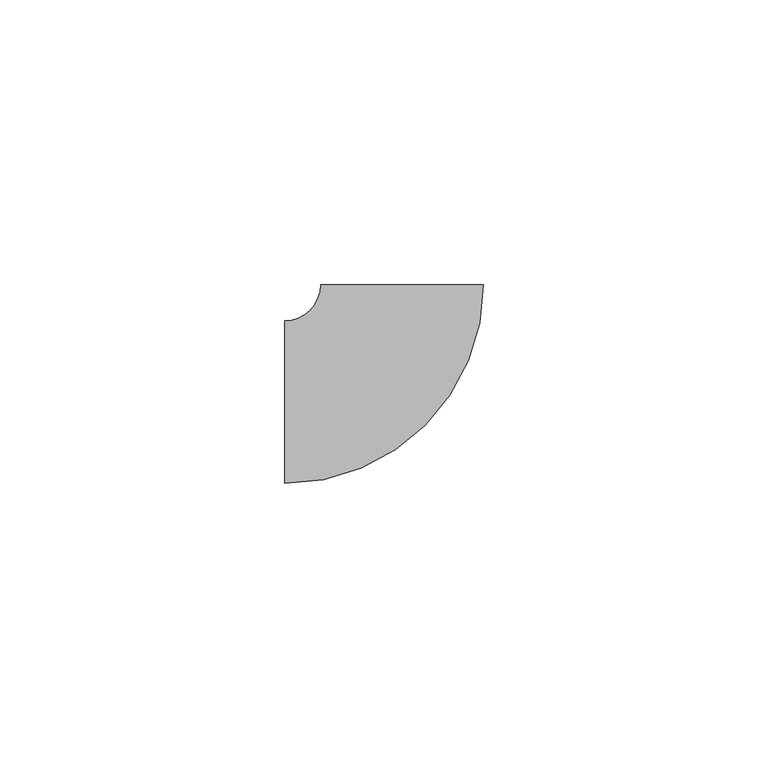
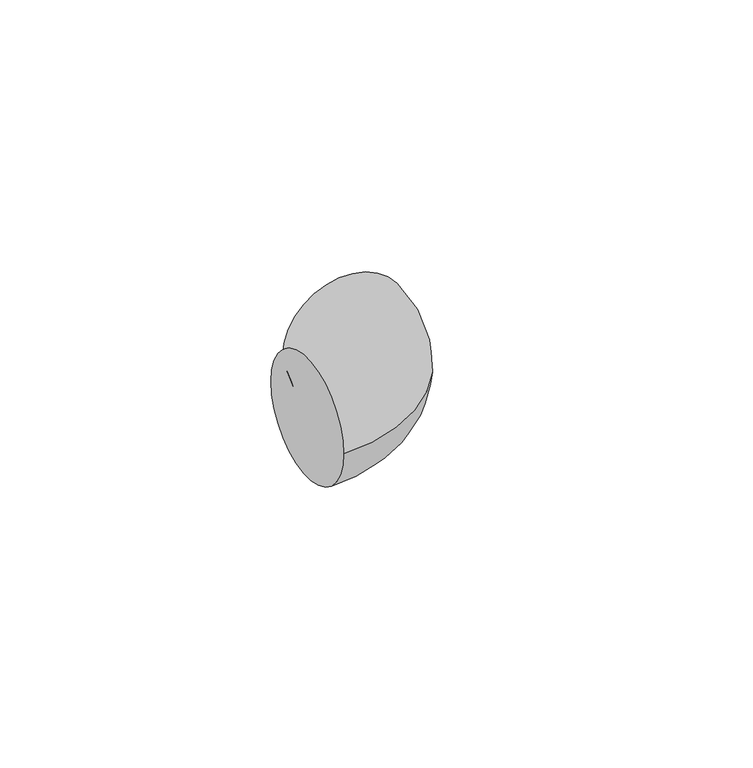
"""IFC4 building model written with IfcOpenShell, lengths in millimetres: pipe fitting geometry, M_Codo - Genérico : Estándar."""

from ifc_helpers import new_model, si_unit, point, frame, origin, place, context, project, spatial, circle_curve, ellipse_curve, trimmed, source, transform, mapped, element, save
from ifc_brep_helpers import plane_surface, revolved_surface, advanced_brep


def pipe_fitting_255c6e3b(model_context):
    return source(origin(), model_context, "Body", "AdvancedBrep", [
        advanced_brep(
        [(-20.6379394, -14.2875, 0.0), (-20.6379394, 14.2875, 0.0), (14.2870606, 20.6382437, 0.0), (-14.2879394, 20.6376352, 0.0)],
        [
            (0, 1, circle_curve(frame((-20.6379394, 0.0, 0.0), z_axis=(-1.0, 0.0, 0.0), x_axis=(0.0, 1.0, 0.0)), 14.2875)),
            (1, 0, circle_curve(frame((-20.6379394, 0.0, 0.0), z_axis=(-1.0, 0.0, 0.0), x_axis=(0.0, 1.0, 0.0)), 14.2875)),
            (2, 3, circle_curve(frame((-0.0004394, 20.6379394, 0.0), z_axis=(-2.1292912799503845e-05, 0.9999999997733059, 0.0), x_axis=(-0.9999999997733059, -2.1292912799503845e-05, 0.0)), 14.2875)),
            (3, 2, circle_curve(frame((-0.0004394, 20.6379394, 0.0), z_axis=(-2.1292912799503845e-05, 0.9999999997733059, 0.0), x_axis=(-0.9999999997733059, -2.1292912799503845e-05, 0.0)), 14.2875)),
            (3, 1, circle_curve(frame((-20.6379394, 20.6375, 0.0), z_axis=(0.0, 0.0, -1.0), x_axis=(0.0, -1.0, 0.0)), 6.35)),
            (0, 2, circle_curve(frame((-20.6379394, 20.6375, 0.0), z_axis=(0.0, 0.0, 1.0), x_axis=(0.0, -1.0, 0.0)), 34.925)),
        ],
        [
            plane_surface(frame((-20.6379394, 0.0, 0.0), z_axis=(-1.0, 0.0, 0.0), x_axis=(0.0, 0.0, 1.0))),
            plane_surface(frame((-0.0004394, 20.6379394, 0.0), z_axis=(-2.129291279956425e-05, 0.999999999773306, 0.0), x_axis=(0.0, 0.0, 1.0))),
            revolved_surface(trimmed(ellipse_curve(frame((-20.6379394, 0.0, 0.0), z_axis=(-1.0, 0.0, 0.0), x_axis=(0.0, 1.0, 0.0)), 14.2875, 14.2875), [point((-20.6379394, -14.2875, 0.0))], [point((-20.6379394, 14.2875, 0.0))], True, "CARTESIAN"), (-20.6379394, 20.6375, 0.0), (0.0, 0.0, 1.0)),
            revolved_surface(trimmed(ellipse_curve(frame((-20.6379394, 0.0, 0.0), z_axis=(-1.0, 0.0, 0.0), x_axis=(0.0, 1.0, 0.0)), 14.2875, 14.2875), [point((-20.6379394, 14.2875, 0.0))], [point((-20.6379394, -14.2875, 0.0))], True, "CARTESIAN"), (-20.6379394, 20.6375, 0.0), (0.0, 0.0, 1.0)),
        ],
        [
            (0, [[1, 2]]),
            (1, [[3, 4]]),
            (2, [[5, -1, 6, -4]]),
            (3, [[-6, -2, -5, -3]]),
        ],
    ),
    ])


if __name__ == "__main__":
    model = new_model("IFC4")
    model_context = context("Model", 3, world=origin())
    ifc_project = project(units=[si_unit("LENGTHUNIT", "METRE", prefix="MILLI")], contexts=[model_context])
    site = spatial("IfcSite", under=ifc_project)
    building = spatial("IfcBuilding", under=site)
    placement = place(None, origin())
    pipe_fitting_shape = pipe_fitting_255c6e3b(model_context)
    element("IfcPipeFitting", 1, ObjectType="M_Codo - Genérico : Estándar", at=placement, inside=building, context=model_context, shape_type="MappedRepresentation", body=[
        mapped(pipe_fitting_shape, transform((0.0, 0.0, 0.0), x_axis=(1.0, 0.0, 0.0), y_axis=(0.0, 1.0, 0.0), z_axis=(0.0, 0.0, 1.0))),
    ])
    save(model, "model.ifc")
